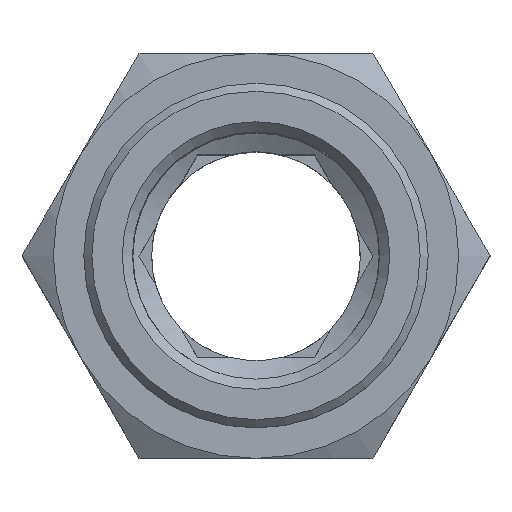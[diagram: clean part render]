
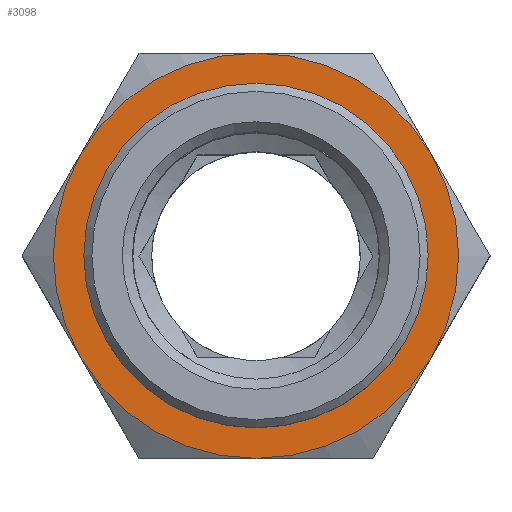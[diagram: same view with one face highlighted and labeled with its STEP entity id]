
A CAD part, top view. The second image highlights one B-rep face of the part: STEP entity #3098.
In plain terms, the highlighted planar face has unit normal (0, 0, 1) as drawn and (0, 1, 0) by its records, which use the part's own axes.
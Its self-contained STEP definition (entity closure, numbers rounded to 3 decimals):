
#921=PLANE('',#2979);
#1032=ORIENTED_EDGE('',*,*,#1413,.F.);
#1033=ORIENTED_EDGE('',*,*,#1414,.F.);
#1034=ORIENTED_EDGE('',*,*,#1415,.F.);
#1035=ORIENTED_EDGE('',*,*,#1416,.F.);
#1036=ORIENTED_EDGE('',*,*,#1417,.F.);
#1037=ORIENTED_EDGE('',*,*,#1418,.F.);
#1038=ORIENTED_EDGE('',*,*,#1412,.F.);
#1237=CIRCLE('',#2978,8.5);
#1238=CIRCLE('',#2980,10.);
#1239=CIRCLE('',#2981,10.);
#1240=CIRCLE('',#2982,10.);
#1241=CIRCLE('',#2983,10.);
#1242=CIRCLE('',#2984,10.);
#1243=CIRCLE('',#2985,10.);
#1312=VERTEX_POINT('',#2741);
#1313=VERTEX_POINT('',#2744);
#1314=VERTEX_POINT('',#2745);
#1315=VERTEX_POINT('',#2747);
#1316=VERTEX_POINT('',#2749);
#1317=VERTEX_POINT('',#2751);
#1318=VERTEX_POINT('',#2753);
#1412=EDGE_CURVE('',#1312,#1312,#1237,.T.);
#1413=EDGE_CURVE('',#1313,#1314,#1238,.T.);
#1414=EDGE_CURVE('',#1315,#1313,#1239,.T.);
#1415=EDGE_CURVE('',#1316,#1315,#1240,.T.);
#1416=EDGE_CURVE('',#1317,#1316,#1241,.T.);
#1417=EDGE_CURVE('',#1318,#1317,#1242,.T.);
#1418=EDGE_CURVE('',#1314,#1318,#1243,.T.);
#1516=EDGE_LOOP('',(#1032,#1033,#1034,#1035,#1036,#1037));
#1517=EDGE_LOOP('',(#1038));
#1620=FACE_BOUND('',#1516,.T.);
#1621=FACE_BOUND('',#1517,.T.);
#2391=DIRECTION('',(0.,1.,0.));
#2392=DIRECTION('',(0.,0.,-8.5));
#2393=DIRECTION('',(0.,1.,0.));
#2394=DIRECTION('',(1.,0.,0.));
#2395=DIRECTION('',(0.,-1.,0.));
#2396=DIRECTION('',(0.,0.,10.));
#2397=DIRECTION('',(0.,-1.,0.));
#2398=DIRECTION('',(8.66,0.,5.));
#2399=DIRECTION('',(0.,-1.,0.));
#2400=DIRECTION('',(8.66,0.,-5.));
#2401=DIRECTION('',(0.,-1.,0.));
#2402=DIRECTION('',(0.,0.,-10.));
#2403=DIRECTION('',(0.,-1.,0.));
#2404=DIRECTION('',(-8.66,0.,-5.));
#2405=DIRECTION('',(0.,-1.,0.));
#2406=DIRECTION('',(-8.66,0.,5.));
#2741=CARTESIAN_POINT('',(21.812,33.238,-8.5));
#2742=CARTESIAN_POINT('',(21.812,33.238,0.));
#2743=CARTESIAN_POINT('',(21.812,33.238,10.));
#2744=CARTESIAN_POINT('',(21.812,33.238,10.));
#2745=CARTESIAN_POINT('',(13.151,33.238,5.));
#2746=CARTESIAN_POINT('',(21.812,33.238,0.));
#2747=CARTESIAN_POINT('',(30.472,33.238,5.));
#2748=CARTESIAN_POINT('',(21.812,33.238,0.));
#2749=CARTESIAN_POINT('',(30.472,33.238,-5.));
#2750=CARTESIAN_POINT('',(21.812,33.238,0.));
#2751=CARTESIAN_POINT('',(21.812,33.238,-10.));
#2752=CARTESIAN_POINT('',(21.812,33.238,0.));
#2753=CARTESIAN_POINT('',(13.151,33.238,-5.));
#2754=CARTESIAN_POINT('',(21.812,33.238,0.));
#2755=CARTESIAN_POINT('',(21.812,33.238,0.));
#2978=AXIS2_PLACEMENT_3D('',#2742,#2391,#2392);
#2979=AXIS2_PLACEMENT_3D('',#2743,#2393,#2394);
#2980=AXIS2_PLACEMENT_3D('',#2746,#2395,#2396);
#2981=AXIS2_PLACEMENT_3D('',#2748,#2397,#2398);
#2982=AXIS2_PLACEMENT_3D('',#2750,#2399,#2400);
#2983=AXIS2_PLACEMENT_3D('',#2752,#2401,#2402);
#2984=AXIS2_PLACEMENT_3D('',#2754,#2403,#2404);
#2985=AXIS2_PLACEMENT_3D('',#2755,#2405,#2406);
#3098=ADVANCED_FACE('',(#1620,#1621),#921,.T.);
